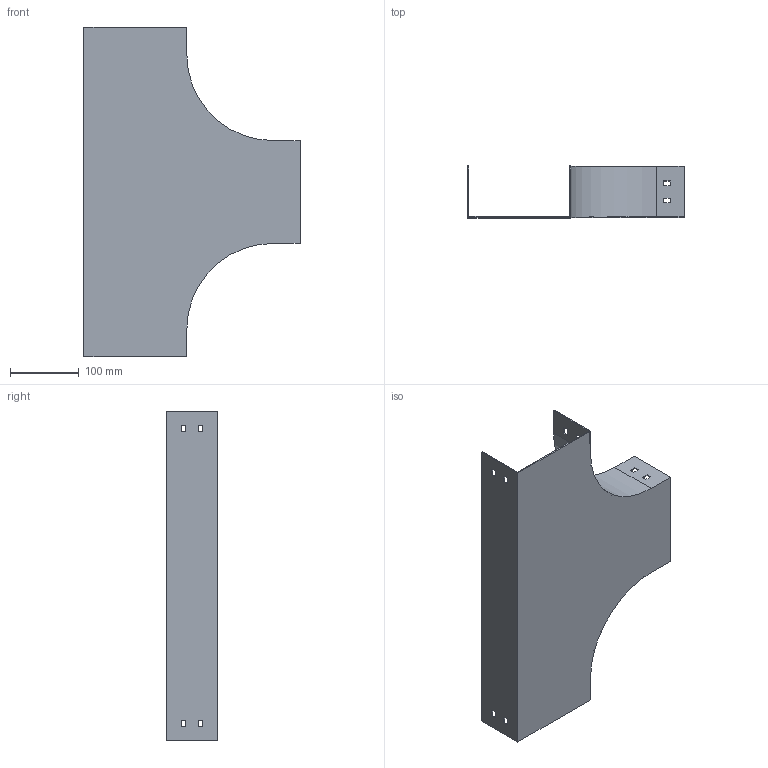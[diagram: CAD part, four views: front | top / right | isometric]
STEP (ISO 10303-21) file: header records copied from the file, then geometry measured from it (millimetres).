
FILE_DESCRIPTION (( 'STEP AP214' ), '1' );
FILE_NAME ('PT_157.step', '2025-07-16T09:23:29', ( '' ), ( '' ), 'SwSTEP 2.0', 'SolidWorks 2023', '' );
FILE_SCHEMA (( 'AUTOMOTIVE_DESIGN' ));
Length unit declared in the file: millimetre
Products named in the file (1): PT_157
Bounding box: 315 x 75 x 480 mm (x, y, z)
Volume: 268039.3 mm3; surface area: 360883.3 mm2
Topology: 1 solids, 1 shells, 70 faces, 204 edges, 136 vertices
Faces by surface type: plane 66, cylinder 4
Entity records: 2347 total; most frequent: CARTESIAN_POINT 411, ORIENTED_EDGE 408, DIRECTION 354, EDGE_CURVE 204, VECTOR 196, LINE 196, VERTEX_POINT 136, EDGE_LOOP 94
